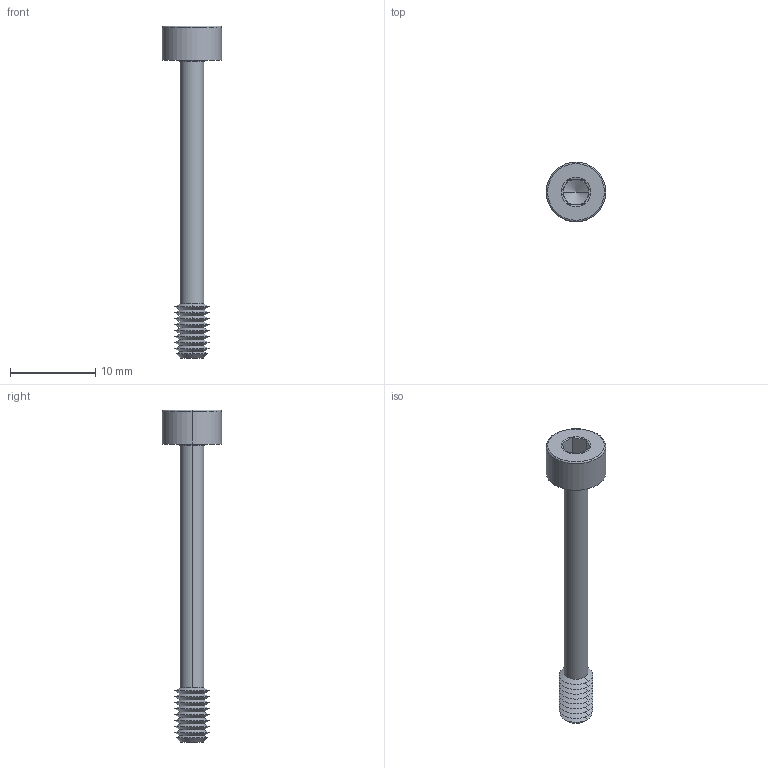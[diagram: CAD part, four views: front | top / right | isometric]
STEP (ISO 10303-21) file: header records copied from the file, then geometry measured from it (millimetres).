
FILE_DESCRIPTION (( 'STEP AP203' ), '1' );
FILE_NAME ('P0154.040-035-BL.step', '2024-06-17T11:25:25', ( '' ), ( '' ), 'SwSTEP 2.0', 'SolidWorks 2019', '' );
FILE_SCHEMA (( 'CONFIG_CONTROL_DESIGN' ));
Length unit declared in the file: millimetre
Products named in the file (1): P0154.040-035-BL
Bounding box: 7 x 7 x 39 mm (x, y, z)
Volume: 362.3 mm3; surface area: 578.6 mm2
Topology: 1 solids, 1 shells, 67 faces, 136 edges, 71 vertices
Faces by surface type: cone 44, plane 15, torus 4, cylinder 4
Entity records: 1787 total; most frequent: DIRECTION 332, CARTESIAN_POINT 299, ORIENTED_EDGE 268, AXIS2_PLACEMENT_3D 136, EDGE_CURVE 134, VERTEX_POINT 71, EDGE_LOOP 69, CIRCLE 68
